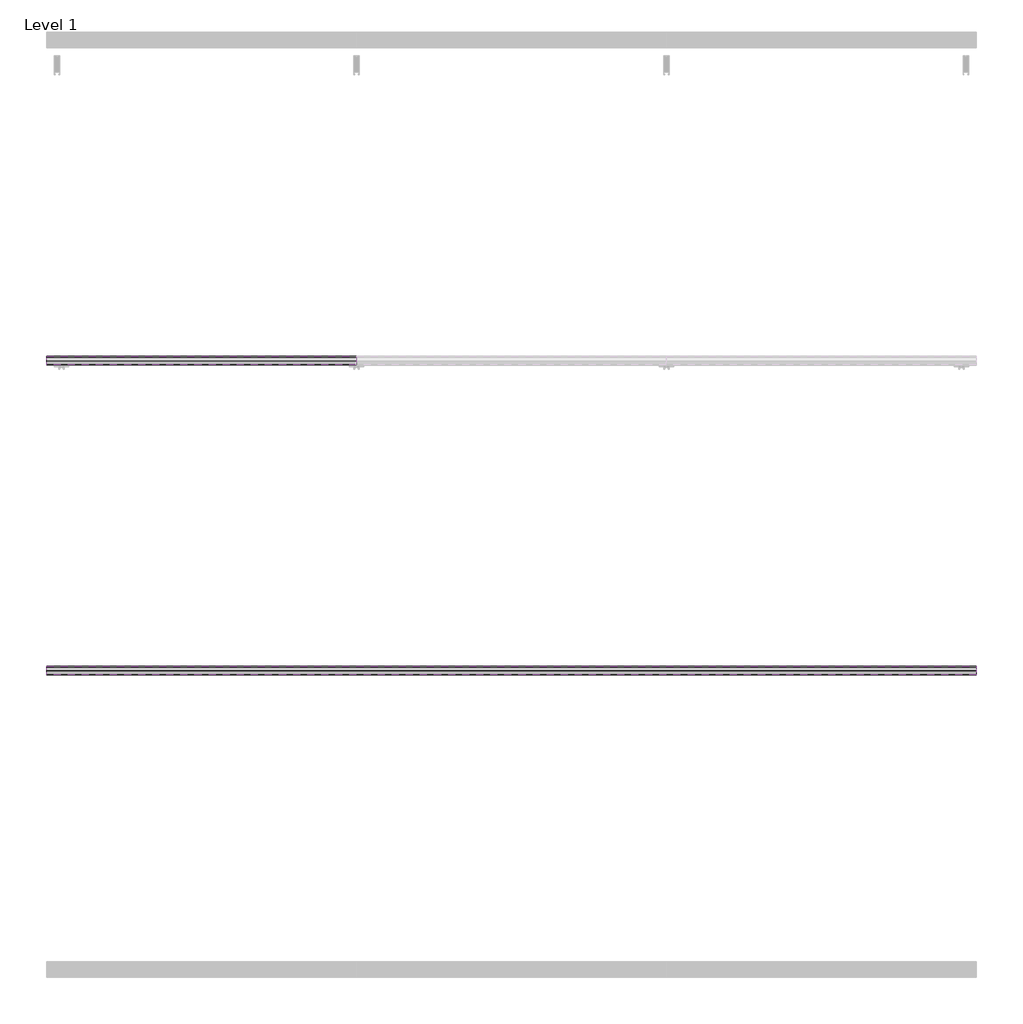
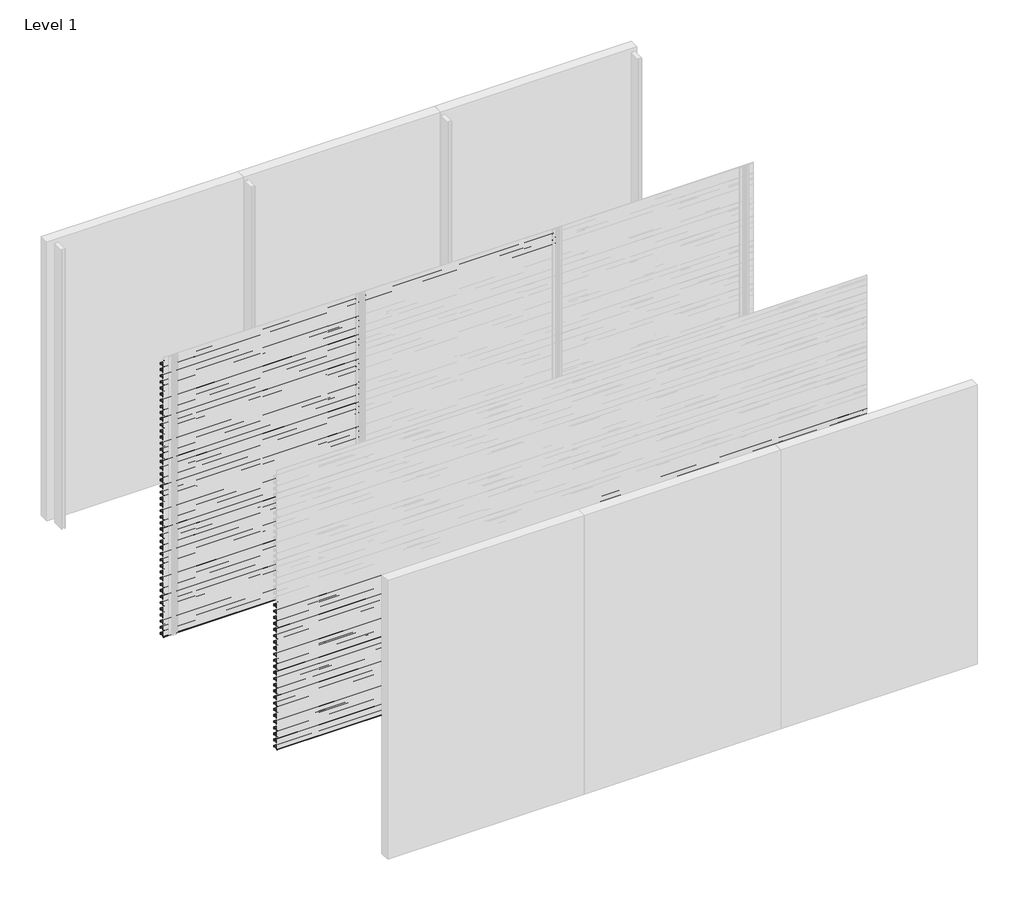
# One storey, part 3 of 27: 71 proxies.
"""IFC4 building model written with IfcOpenShell, lengths in millimetres."""

from ifc_helpers import new_model, si_unit, frame, origin, place, context, project, spatial, polyline, outline, extrude, element, save

model = new_model("IFC4")

# Units and contexts
model_context = context("Model", 3, world=origin())
ifc_project = project(units=[si_unit("LENGTHUNIT", "METRE", prefix="MILLI")], contexts=[model_context])

# Site, building, storey
site = spatial("IfcSite", under=ifc_project)
building = spatial("IfcBuilding", under=site)
storey = spatial("IfcBuildingStorey", under=building, Name="Level 1", Elevation=0.0)

# Proxies
placement = place(None, origin())
element("IfcBuildingElementProxy", 1, Name="Wall Sweeps", at=placement, inside=storey, context=model_context, shape_type="SweptSolid", body=[
    extrude(outline(polyline([(-53943.0, 2913.2), (-53943.0, 2893.5), (-53944.25, 2894.5866084), (-53944.25, 2912.4872415), (-53963.0322086, 2925.6010889), (-53995.1332975, 2893.5), (-53996.0525363, 2894.4192388), (-53964.1148087, 2926.3569665), (-53998.0, 2950.0158044), (-53998.0, 2970.0), (-53996.75, 2970.0), (-53996.75, 2950.7285629), (-53943.0, 2913.2)])), frame((0.0, 0.0, 0.0), z_axis=(1.0, 0.0, 0.0), x_axis=(0.0, 1.0, 0.0)), (0.0, 0.0, 1.0), 2000.0),
])
element("IfcBuildingElementProxy", 2, Name="Wall Sweeps", at=placement, inside=storey, context=model_context, shape_type="SweptSolid", body=[
    extrude(outline(polyline([(-53943.0, 2847.2), (-53943.0, 2827.5), (-53944.25, 2828.5866084), (-53944.25, 2846.4872415), (-53963.0322086, 2859.6010889), (-53995.1332975, 2827.5), (-53996.0525363, 2828.4192388), (-53964.1148087, 2860.3569665), (-53998.0, 2884.0158044), (-53998.0, 2904.0), (-53996.75, 2904.0), (-53996.75, 2884.7285629), (-53943.0, 2847.2)])), frame((0.0, 0.0, 0.0), z_axis=(1.0, 0.0, 0.0), x_axis=(0.0, 1.0, 0.0)), (0.0, 0.0, 1.0), 2000.0),
])
element("IfcBuildingElementProxy", 3, Name="Wall Sweeps", at=placement, inside=storey, context=model_context, shape_type="SweptSolid", body=[
    extrude(outline(polyline([(-53943.0, 2781.2), (-53943.0, 2761.5), (-53944.25, 2762.5866084), (-53944.25, 2780.4872415), (-53963.0322086, 2793.6010889), (-53995.1332975, 2761.5), (-53996.0525363, 2762.4192388), (-53964.1148087, 2794.3569665), (-53998.0, 2818.0158044), (-53998.0, 2838.0), (-53996.75, 2838.0), (-53996.75, 2818.7285629), (-53943.0, 2781.2)])), frame((0.0, 0.0, 0.0), z_axis=(1.0, 0.0, 0.0), x_axis=(0.0, 1.0, 0.0)), (0.0, 0.0, 1.0), 2000.0),
])
element("IfcBuildingElementProxy", 4, Name="Wall Sweeps", at=placement, inside=storey, context=model_context, shape_type="SweptSolid", body=[
    extrude(outline(polyline([(-53943.0, 2715.2), (-53943.0, 2695.5), (-53944.25, 2696.5866084), (-53944.25, 2714.4872415), (-53963.0322086, 2727.6010889), (-53995.1332975, 2695.5), (-53996.0525363, 2696.4192388), (-53964.1148087, 2728.3569665), (-53998.0, 2752.0158044), (-53998.0, 2772.0), (-53996.75, 2772.0), (-53996.75, 2752.7285629), (-53943.0, 2715.2)])), frame((0.0, 0.0, 0.0), z_axis=(1.0, 0.0, 0.0), x_axis=(0.0, 1.0, 0.0)), (0.0, 0.0, 1.0), 2000.0),
])
element("IfcBuildingElementProxy", 5, Name="Wall Sweeps", at=placement, inside=storey, context=model_context, shape_type="SweptSolid", body=[
    extrude(outline(polyline([(-53943.0, 2649.2), (-53943.0, 2629.5), (-53944.25, 2630.5866084), (-53944.25, 2648.4872415), (-53963.0322086, 2661.6010889), (-53995.1332975, 2629.5), (-53996.0525363, 2630.4192388), (-53964.1148087, 2662.3569665), (-53998.0, 2686.0158044), (-53998.0, 2706.0), (-53996.75, 2706.0), (-53996.75, 2686.7285629), (-53943.0, 2649.2)])), frame((0.0, 0.0, 0.0), z_axis=(1.0, 0.0, 0.0), x_axis=(0.0, 1.0, 0.0)), (0.0, 0.0, 1.0), 2000.0),
])
element("IfcBuildingElementProxy", 6, Name="Wall Sweeps", at=placement, inside=storey, context=model_context, shape_type="SweptSolid", body=[
    extrude(outline(polyline([(-53943.0, 2583.2), (-53943.0, 2563.5), (-53944.25, 2564.5866084), (-53944.25, 2582.4872415), (-53963.0322086, 2595.6010889), (-53995.1332975, 2563.5), (-53996.0525363, 2564.4192388), (-53964.1148087, 2596.3569665), (-53998.0, 2620.0158044), (-53998.0, 2640.0), (-53996.75, 2640.0), (-53996.75, 2620.7285629), (-53943.0, 2583.2)])), frame((0.0, 0.0, 0.0), z_axis=(1.0, 0.0, 0.0), x_axis=(0.0, 1.0, 0.0)), (0.0, 0.0, 1.0), 2000.0),
])
element("IfcBuildingElementProxy", 7, Name="Wall Sweeps", at=placement, inside=storey, context=model_context, shape_type="SweptSolid", body=[
    extrude(outline(polyline([(-53943.0, 2517.2), (-53943.0, 2497.5), (-53944.25, 2498.5866084), (-53944.25, 2516.4872415), (-53963.0322086, 2529.6010889), (-53995.1332975, 2497.5), (-53996.0525363, 2498.4192388), (-53964.1148087, 2530.3569665), (-53998.0, 2554.0158044), (-53998.0, 2574.0), (-53996.75, 2574.0), (-53996.75, 2554.7285629), (-53943.0, 2517.2)])), frame((0.0, 0.0, 0.0), z_axis=(1.0, 0.0, 0.0), x_axis=(0.0, 1.0, 0.0)), (0.0, 0.0, 1.0), 2000.0),
])
element("IfcBuildingElementProxy", 8, Name="Wall Sweeps", at=placement, inside=storey, context=model_context, shape_type="SweptSolid", body=[
    extrude(outline(polyline([(-53943.0, 2451.2), (-53943.0, 2431.5), (-53944.25, 2432.5866084), (-53944.25, 2450.4872415), (-53963.0322086, 2463.6010889), (-53995.1332975, 2431.5), (-53996.0525363, 2432.4192388), (-53964.1148087, 2464.3569665), (-53998.0, 2488.0158044), (-53998.0, 2508.0), (-53996.75, 2508.0), (-53996.75, 2488.7285629), (-53943.0, 2451.2)])), frame((0.0, 0.0, 0.0), z_axis=(1.0, 0.0, 0.0), x_axis=(0.0, 1.0, 0.0)), (0.0, 0.0, 1.0), 2000.0),
])
element("IfcBuildingElementProxy", 9, Name="Wall Sweeps", at=placement, inside=storey, context=model_context, shape_type="SweptSolid", body=[
    extrude(outline(polyline([(-53943.0, 2385.2), (-53943.0, 2365.5), (-53944.25, 2366.5866084), (-53944.25, 2384.4872415), (-53963.0322086, 2397.6010889), (-53995.1332975, 2365.5), (-53996.0525363, 2366.4192388), (-53964.1148087, 2398.3569665), (-53998.0, 2422.0158044), (-53998.0, 2442.0), (-53996.75, 2442.0), (-53996.75, 2422.7285629), (-53943.0, 2385.2)])), frame((0.0, 0.0, 0.0), z_axis=(1.0, 0.0, 0.0), x_axis=(0.0, 1.0, 0.0)), (0.0, 0.0, 1.0), 2000.0),
])
element("IfcBuildingElementProxy", 10, Name="Wall Sweeps", at=placement, inside=storey, context=model_context, shape_type="SweptSolid", body=[
    extrude(outline(polyline([(-53943.0, 2319.2), (-53943.0, 2299.5), (-53944.25, 2300.5866084), (-53944.25, 2318.4872415), (-53963.0322086, 2331.6010889), (-53995.1332975, 2299.5), (-53996.0525363, 2300.4192388), (-53964.1148087, 2332.3569665), (-53998.0, 2356.0158044), (-53998.0, 2376.0), (-53996.75, 2376.0), (-53996.75, 2356.7285629), (-53943.0, 2319.2)])), frame((0.0, 0.0, 0.0), z_axis=(1.0, 0.0, 0.0), x_axis=(0.0, 1.0, 0.0)), (0.0, 0.0, 1.0), 2000.0),
])
element("IfcBuildingElementProxy", 11, Name="Wall Sweeps", at=placement, inside=storey, context=model_context, shape_type="SweptSolid", body=[
    extrude(outline(polyline([(-53943.0, 2253.2), (-53943.0, 2233.5), (-53944.25, 2234.5866084), (-53944.25, 2252.4872415), (-53963.0322086, 2265.6010889), (-53995.1332975, 2233.5), (-53996.0525363, 2234.4192388), (-53964.1148087, 2266.3569665), (-53998.0, 2290.0158044), (-53998.0, 2310.0), (-53996.75, 2310.0), (-53996.75, 2290.7285629), (-53943.0, 2253.2)])), frame((0.0, 0.0, 0.0), z_axis=(1.0, 0.0, 0.0), x_axis=(0.0, 1.0, 0.0)), (0.0, 0.0, 1.0), 2000.0),
])
element("IfcBuildingElementProxy", 12, Name="Wall Sweeps", at=placement, inside=storey, context=model_context, shape_type="SweptSolid", body=[
    extrude(outline(polyline([(-53943.0, 2187.2), (-53943.0, 2167.5), (-53944.25, 2168.5866084), (-53944.25, 2186.4872415), (-53963.0322086, 2199.6010889), (-53995.1332975, 2167.5), (-53996.0525363, 2168.4192388), (-53964.1148087, 2200.3569665), (-53998.0, 2224.0158044), (-53998.0, 2244.0), (-53996.75, 2244.0), (-53996.75, 2224.7285629), (-53943.0, 2187.2)])), frame((0.0, 0.0, 0.0), z_axis=(1.0, 0.0, 0.0), x_axis=(0.0, 1.0, 0.0)), (0.0, 0.0, 1.0), 2000.0),
])
element("IfcBuildingElementProxy", 13, Name="Wall Sweeps", at=placement, inside=storey, context=model_context, shape_type="SweptSolid", body=[
    extrude(outline(polyline([(-53943.0, 2121.2), (-53943.0, 2101.5), (-53944.25, 2102.5866084), (-53944.25, 2120.4872415), (-53963.0322086, 2133.6010889), (-53995.1332975, 2101.5), (-53996.0525363, 2102.4192388), (-53964.1148087, 2134.3569665), (-53998.0, 2158.0158044), (-53998.0, 2178.0), (-53996.75, 2178.0), (-53996.75, 2158.7285629), (-53943.0, 2121.2)])), frame((0.0, 0.0, 0.0), z_axis=(1.0, 0.0, 0.0), x_axis=(0.0, 1.0, 0.0)), (0.0, 0.0, 1.0), 2000.0),
])
element("IfcBuildingElementProxy", 14, Name="Wall Sweeps", at=placement, inside=storey, context=model_context, shape_type="SweptSolid", body=[
    extrude(outline(polyline([(-53943.0, 2055.2), (-53943.0, 2035.5), (-53944.25, 2036.5866084), (-53944.25, 2054.4872415), (-53963.0322086, 2067.6010889), (-53995.1332975, 2035.5), (-53996.0525363, 2036.4192388), (-53964.1148087, 2068.3569665), (-53998.0, 2092.0158044), (-53998.0, 2112.0), (-53996.75, 2112.0), (-53996.75, 2092.7285629), (-53943.0, 2055.2)])), frame((0.0, 0.0, 0.0), z_axis=(1.0, 0.0, 0.0), x_axis=(0.0, 1.0, 0.0)), (0.0, 0.0, 1.0), 2000.0),
])
element("IfcBuildingElementProxy", 15, Name="Wall Sweeps", at=placement, inside=storey, context=model_context, shape_type="SweptSolid", body=[
    extrude(outline(polyline([(-53943.0, 1989.2), (-53943.0, 1969.5), (-53944.25, 1970.5866084), (-53944.25, 1988.4872415), (-53963.0322086, 2001.6010889), (-53995.1332975, 1969.5), (-53996.0525363, 1970.4192388), (-53964.1148087, 2002.3569665), (-53998.0, 2026.0158044), (-53998.0, 2046.0), (-53996.75, 2046.0), (-53996.75, 2026.7285629), (-53943.0, 1989.2)])), frame((0.0, 0.0, 0.0), z_axis=(1.0, 0.0, 0.0), x_axis=(0.0, 1.0, 0.0)), (0.0, 0.0, 1.0), 2000.0),
])
element("IfcBuildingElementProxy", 16, Name="Wall Sweeps", at=placement, inside=storey, context=model_context, shape_type="SweptSolid", body=[
    extrude(outline(polyline([(-53943.0, 1923.2), (-53943.0, 1903.5), (-53944.25, 1904.5866084), (-53944.25, 1922.4872415), (-53963.0322086, 1935.6010889), (-53995.1332975, 1903.5), (-53996.0525363, 1904.4192388), (-53964.1148087, 1936.3569665), (-53998.0, 1960.0158044), (-53998.0, 1980.0), (-53996.75, 1980.0), (-53996.75, 1960.7285629), (-53943.0, 1923.2)])), frame((0.0, 0.0, 0.0), z_axis=(1.0, 0.0, 0.0), x_axis=(0.0, 1.0, 0.0)), (0.0, 0.0, 1.0), 2000.0),
])
element("IfcBuildingElementProxy", 17, Name="Wall Sweeps", at=placement, inside=storey, context=model_context, shape_type="SweptSolid", body=[
    extrude(outline(polyline([(-53943.0, 1857.2), (-53943.0, 1837.5), (-53944.25, 1838.5866084), (-53944.25, 1856.4872415), (-53963.0322086, 1869.6010889), (-53995.1332975, 1837.5), (-53996.0525363, 1838.4192388), (-53964.1148087, 1870.3569665), (-53998.0, 1894.0158044), (-53998.0, 1914.0), (-53996.75, 1914.0), (-53996.75, 1894.7285629), (-53943.0, 1857.2)])), frame((0.0, 0.0, 0.0), z_axis=(1.0, 0.0, 0.0), x_axis=(0.0, 1.0, 0.0)), (0.0, 0.0, 1.0), 2000.0),
])
element("IfcBuildingElementProxy", 18, Name="Wall Sweeps", at=placement, inside=storey, context=model_context, shape_type="SweptSolid", body=[
    extrude(outline(polyline([(-53943.0, 1791.2), (-53943.0, 1771.5), (-53944.25, 1772.5866084), (-53944.25, 1790.4872415), (-53963.0322086, 1803.6010889), (-53995.1332975, 1771.5), (-53996.0525363, 1772.4192388), (-53964.1148087, 1804.3569665), (-53998.0, 1828.0158044), (-53998.0, 1848.0), (-53996.75, 1848.0), (-53996.75, 1828.7285629), (-53943.0, 1791.2)])), frame((0.0, 0.0, 0.0), z_axis=(1.0, 0.0, 0.0), x_axis=(0.0, 1.0, 0.0)), (0.0, 0.0, 1.0), 2000.0),
])
element("IfcBuildingElementProxy", 19, Name="Wall Sweeps", at=placement, inside=storey, context=model_context, shape_type="SweptSolid", body=[
    extrude(outline(polyline([(-53943.0, 1725.2), (-53943.0, 1705.5), (-53944.25, 1706.5866084), (-53944.25, 1724.4872415), (-53963.0322086, 1737.6010889), (-53995.1332975, 1705.5), (-53996.0525363, 1706.4192388), (-53964.1148087, 1738.3569665), (-53998.0, 1762.0158044), (-53998.0, 1782.0), (-53996.75, 1782.0), (-53996.75, 1762.7285629), (-53943.0, 1725.2)])), frame((0.0, 0.0, 0.0), z_axis=(1.0, 0.0, 0.0), x_axis=(0.0, 1.0, 0.0)), (0.0, 0.0, 1.0), 2000.0),
])
element("IfcBuildingElementProxy", 20, Name="Wall Sweeps", at=placement, inside=storey, context=model_context, shape_type="SweptSolid", body=[
    extrude(outline(polyline([(-53943.0, 1659.2), (-53943.0, 1639.5), (-53944.25, 1640.5866084), (-53944.25, 1658.4872415), (-53963.0322086, 1671.6010889), (-53995.1332975, 1639.5), (-53996.0525363, 1640.4192388), (-53964.1148087, 1672.3569665), (-53998.0, 1696.0158044), (-53998.0, 1716.0), (-53996.75, 1716.0), (-53996.75, 1696.7285629), (-53943.0, 1659.2)])), frame((0.0, 0.0, 0.0), z_axis=(1.0, 0.0, 0.0), x_axis=(0.0, 1.0, 0.0)), (0.0, 0.0, 1.0), 2000.0),
])
element("IfcBuildingElementProxy", 21, Name="Wall Sweeps", at=placement, inside=storey, context=model_context, shape_type="SweptSolid", body=[
    extrude(outline(polyline([(-53943.0, 1593.2), (-53943.0, 1573.5), (-53944.25, 1574.5866084), (-53944.25, 1592.4872415), (-53963.0322086, 1605.6010889), (-53995.1332975, 1573.5), (-53996.0525363, 1574.4192388), (-53964.1148087, 1606.3569665), (-53998.0, 1630.0158044), (-53998.0, 1650.0), (-53996.75, 1650.0), (-53996.75, 1630.7285629), (-53943.0, 1593.2)])), frame((0.0, 0.0, 0.0), z_axis=(1.0, 0.0, 0.0), x_axis=(0.0, 1.0, 0.0)), (0.0, 0.0, 1.0), 2000.0),
])
element("IfcBuildingElementProxy", 22, Name="Wall Sweeps", at=placement, inside=storey, context=model_context, shape_type="SweptSolid", body=[
    extrude(outline(polyline([(-53943.0, 1527.2), (-53943.0, 1507.5), (-53944.25, 1508.5866084), (-53944.25, 1526.4872415), (-53963.0322086, 1539.6010889), (-53995.1332975, 1507.5), (-53996.0525363, 1508.4192388), (-53964.1148087, 1540.3569665), (-53998.0, 1564.0158044), (-53998.0, 1584.0), (-53996.75, 1584.0), (-53996.75, 1564.7285629), (-53943.0, 1527.2)])), frame((0.0, 0.0, 0.0), z_axis=(1.0, 0.0, 0.0), x_axis=(0.0, 1.0, 0.0)), (0.0, 0.0, 1.0), 2000.0),
])
element("IfcBuildingElementProxy", 23, Name="Wall Sweeps", at=placement, inside=storey, context=model_context, shape_type="SweptSolid", body=[
    extrude(outline(polyline([(-53943.0, 1461.2), (-53943.0, 1441.5), (-53944.25, 1442.5866084), (-53944.25, 1460.4872415), (-53963.0322086, 1473.6010889), (-53995.1332975, 1441.5), (-53996.0525363, 1442.4192388), (-53964.1148087, 1474.3569665), (-53998.0, 1498.0158044), (-53998.0, 1518.0), (-53996.75, 1518.0), (-53996.75, 1498.7285629), (-53943.0, 1461.2)])), frame((0.0, 0.0, 0.0), z_axis=(1.0, 0.0, 0.0), x_axis=(0.0, 1.0, 0.0)), (0.0, 0.0, 1.0), 2000.0),
])
element("IfcBuildingElementProxy", 24, Name="Wall Sweeps", at=placement, inside=storey, context=model_context, shape_type="SweptSolid", body=[
    extrude(outline(polyline([(-53943.0, 1395.2), (-53943.0, 1375.5), (-53944.25, 1376.5866084), (-53944.25, 1394.4872415), (-53963.0322086, 1407.6010889), (-53995.1332975, 1375.5), (-53996.0525363, 1376.4192388), (-53964.1148087, 1408.3569665), (-53998.0, 1432.0158044), (-53998.0, 1452.0), (-53996.75, 1452.0), (-53996.75, 1432.7285629), (-53943.0, 1395.2)])), frame((0.0, 0.0, 0.0), z_axis=(1.0, 0.0, 0.0), x_axis=(0.0, 1.0, 0.0)), (0.0, 0.0, 1.0), 2000.0),
])
element("IfcBuildingElementProxy", 25, Name="Wall Sweeps", at=placement, inside=storey, context=model_context, shape_type="SweptSolid", body=[
    extrude(outline(polyline([(-53943.0, 1329.2), (-53943.0, 1309.5), (-53944.25, 1310.5866084), (-53944.25, 1328.4872415), (-53963.0322086, 1341.6010889), (-53995.1332975, 1309.5), (-53996.0525363, 1310.4192388), (-53964.1148087, 1342.3569665), (-53998.0, 1366.0158044), (-53998.0, 1386.0), (-53996.75, 1386.0), (-53996.75, 1366.7285629), (-53943.0, 1329.2)])), frame((0.0, 0.0, 0.0), z_axis=(1.0, 0.0, 0.0), x_axis=(0.0, 1.0, 0.0)), (0.0, 0.0, 1.0), 2000.0),
])
element("IfcBuildingElementProxy", 26, Name="Wall Sweeps", at=placement, inside=storey, context=model_context, shape_type="SweptSolid", body=[
    extrude(outline(polyline([(-53943.0, 1263.2), (-53943.0, 1243.5), (-53944.25, 1244.5866084), (-53944.25, 1262.4872415), (-53963.0322086, 1275.6010889), (-53995.1332975, 1243.5), (-53996.0525363, 1244.4192388), (-53964.1148087, 1276.3569665), (-53998.0, 1300.0158044), (-53998.0, 1320.0), (-53996.75, 1320.0), (-53996.75, 1300.7285629), (-53943.0, 1263.2)])), frame((0.0, 0.0, 0.0), z_axis=(1.0, 0.0, 0.0), x_axis=(0.0, 1.0, 0.0)), (0.0, 0.0, 1.0), 2000.0),
])
element("IfcBuildingElementProxy", 27, Name="Wall Sweeps", at=placement, inside=storey, context=model_context, shape_type="SweptSolid", body=[
    extrude(outline(polyline([(-53943.0, 1197.2), (-53943.0, 1177.5), (-53944.25, 1178.5866084), (-53944.25, 1196.4872415), (-53963.0322086, 1209.6010889), (-53995.1332975, 1177.5), (-53996.0525363, 1178.4192388), (-53964.1148087, 1210.3569665), (-53998.0, 1234.0158044), (-53998.0, 1254.0), (-53996.75, 1254.0), (-53996.75, 1234.7285629), (-53943.0, 1197.2)])), frame((0.0, 0.0, 0.0), z_axis=(1.0, 0.0, 0.0), x_axis=(0.0, 1.0, 0.0)), (0.0, 0.0, 1.0), 2000.0),
])
element("IfcBuildingElementProxy", 28, Name="Wall Sweeps", at=placement, inside=storey, context=model_context, shape_type="SweptSolid", body=[
    extrude(outline(polyline([(-53943.0, 1131.2), (-53943.0, 1111.5), (-53944.25, 1112.5866084), (-53944.25, 1130.4872415), (-53963.0322086, 1143.6010889), (-53995.1332975, 1111.5), (-53996.0525363, 1112.4192388), (-53964.1148087, 1144.3569665), (-53998.0, 1168.0158044), (-53998.0, 1188.0), (-53996.75, 1188.0), (-53996.75, 1168.7285629), (-53943.0, 1131.2)])), frame((0.0, 0.0, 0.0), z_axis=(1.0, 0.0, 0.0), x_axis=(0.0, 1.0, 0.0)), (0.0, 0.0, 1.0), 2000.0),
])
element("IfcBuildingElementProxy", 29, Name="Wall Sweeps", at=placement, inside=storey, context=model_context, shape_type="SweptSolid", body=[
    extrude(outline(polyline([(-53943.0, 1065.2), (-53943.0, 1045.5), (-53944.25, 1046.5866084), (-53944.25, 1064.4872415), (-53963.0322086, 1077.6010889), (-53995.1332975, 1045.5), (-53996.0525363, 1046.4192388), (-53964.1148087, 1078.3569665), (-53998.0, 1102.0158044), (-53998.0, 1122.0), (-53996.75, 1122.0), (-53996.75, 1102.7285629), (-53943.0, 1065.2)])), frame((0.0, 0.0, 0.0), z_axis=(1.0, 0.0, 0.0), x_axis=(0.0, 1.0, 0.0)), (0.0, 0.0, 1.0), 2000.0),
])
element("IfcBuildingElementProxy", 30, Name="Wall Sweeps", at=placement, inside=storey, context=model_context, shape_type="SweptSolid", body=[
    extrude(outline(polyline([(-53943.0, 999.2), (-53943.0, 979.5), (-53944.25, 980.5866084), (-53944.25, 998.4872415), (-53963.0322086, 1011.6010889), (-53995.1332975, 979.5), (-53996.0525363, 980.4192388), (-53964.1148087, 1012.3569665), (-53998.0, 1036.0158044), (-53998.0, 1056.0), (-53996.75, 1056.0), (-53996.75, 1036.7285629), (-53943.0, 999.2)])), frame((0.0, 0.0, 0.0), z_axis=(1.0, 0.0, 0.0), x_axis=(0.0, 1.0, 0.0)), (0.0, 0.0, 1.0), 2000.0),
])
element("IfcBuildingElementProxy", 31, Name="Wall Sweeps", at=placement, inside=storey, context=model_context, shape_type="SweptSolid", body=[
    extrude(outline(polyline([(-53943.0, 933.2), (-53943.0, 913.5), (-53944.25, 914.5866084), (-53944.25, 932.4872415), (-53963.0322086, 945.6010889), (-53995.1332975, 913.5), (-53996.0525363, 914.4192388), (-53964.1148087, 946.3569665), (-53998.0, 970.0158044), (-53998.0, 990.0), (-53996.75, 990.0), (-53996.75, 970.7285629), (-53943.0, 933.2)])), frame((0.0, 0.0, 0.0), z_axis=(1.0, 0.0, 0.0), x_axis=(0.0, 1.0, 0.0)), (0.0, 0.0, 1.0), 2000.0),
])
element("IfcBuildingElementProxy", 32, Name="Wall Sweeps", at=placement, inside=storey, context=model_context, shape_type="SweptSolid", body=[
    extrude(outline(polyline([(-53943.0, 867.2), (-53943.0, 847.5), (-53944.25, 848.5866084), (-53944.25, 866.4872415), (-53963.0322086, 879.6010889), (-53995.1332975, 847.5), (-53996.0525363, 848.4192388), (-53964.1148087, 880.3569665), (-53998.0, 904.0158044), (-53998.0, 924.0), (-53996.75, 924.0), (-53996.75, 904.7285629), (-53943.0, 867.2)])), frame((0.0, 0.0, 0.0), z_axis=(1.0, 0.0, 0.0), x_axis=(0.0, 1.0, 0.0)), (0.0, 0.0, 1.0), 2000.0),
])
element("IfcBuildingElementProxy", 33, Name="Wall Sweeps", at=placement, inside=storey, context=model_context, shape_type="SweptSolid", body=[
    extrude(outline(polyline([(-53943.0, 801.2), (-53943.0, 781.5), (-53944.25, 782.5866084), (-53944.25, 800.4872415), (-53963.0322086, 813.6010889), (-53995.1332975, 781.5), (-53996.0525363, 782.4192388), (-53964.1148087, 814.3569665), (-53998.0, 838.0158044), (-53998.0, 858.0), (-53996.75, 858.0), (-53996.75, 838.7285629), (-53943.0, 801.2)])), frame((0.0, 0.0, 0.0), z_axis=(1.0, 0.0, 0.0), x_axis=(0.0, 1.0, 0.0)), (0.0, 0.0, 1.0), 2000.0),
])
element("IfcBuildingElementProxy", 34, Name="Wall Sweeps", at=placement, inside=storey, context=model_context, shape_type="SweptSolid", body=[
    extrude(outline(polyline([(-53943.0, 735.2), (-53943.0, 715.5), (-53944.25, 716.5866084), (-53944.25, 734.4872415), (-53963.0322086, 747.6010889), (-53995.1332975, 715.5), (-53996.0525363, 716.4192388), (-53964.1148087, 748.3569665), (-53998.0, 772.0158044), (-53998.0, 792.0), (-53996.75, 792.0), (-53996.75, 772.7285629), (-53943.0, 735.2)])), frame((0.0, 0.0, 0.0), z_axis=(1.0, 0.0, 0.0), x_axis=(0.0, 1.0, 0.0)), (0.0, 0.0, 1.0), 2000.0),
])
element("IfcBuildingElementProxy", 35, Name="Wall Sweeps", at=placement, inside=storey, context=model_context, shape_type="SweptSolid", body=[
    extrude(outline(polyline([(-53943.0, 669.2), (-53943.0, 649.5), (-53944.25, 650.5866084), (-53944.25, 668.4872415), (-53963.0322086, 681.6010889), (-53995.1332975, 649.5), (-53996.0525363, 650.4192388), (-53964.1148087, 682.3569665), (-53998.0, 706.0158044), (-53998.0, 726.0), (-53996.75, 726.0), (-53996.75, 706.7285629), (-53943.0, 669.2)])), frame((0.0, 0.0, 0.0), z_axis=(1.0, 0.0, 0.0), x_axis=(0.0, 1.0, 0.0)), (0.0, 0.0, 1.0), 2000.0),
])
element("IfcBuildingElementProxy", 36, Name="Wall Sweeps", at=placement, inside=storey, context=model_context, shape_type="SweptSolid", body=[
    extrude(outline(polyline([(-53943.0, 603.2), (-53943.0, 583.5), (-53944.25, 584.5866084), (-53944.25, 602.4872415), (-53963.0322086, 615.6010889), (-53995.1332975, 583.5), (-53996.0525363, 584.4192388), (-53964.1148087, 616.3569665), (-53998.0, 640.0158044), (-53998.0, 660.0), (-53996.75, 660.0), (-53996.75, 640.7285629), (-53943.0, 603.2)])), frame((0.0, 0.0, 0.0), z_axis=(1.0, 0.0, 0.0), x_axis=(0.0, 1.0, 0.0)), (0.0, 0.0, 1.0), 2000.0),
])
element("IfcBuildingElementProxy", 37, Name="Wall Sweeps", at=placement, inside=storey, context=model_context, shape_type="SweptSolid", body=[
    extrude(outline(polyline([(-53943.0, 537.2), (-53943.0, 517.5), (-53944.25, 518.5866084), (-53944.25, 536.4872415), (-53963.0322086, 549.6010889), (-53995.1332975, 517.5), (-53996.0525363, 518.4192388), (-53964.1148087, 550.3569665), (-53998.0, 574.0158044), (-53998.0, 594.0), (-53996.75, 594.0), (-53996.75, 574.7285629), (-53943.0, 537.2)])), frame((0.0, 0.0, 0.0), z_axis=(1.0, 0.0, 0.0), x_axis=(0.0, 1.0, 0.0)), (0.0, 0.0, 1.0), 2000.0),
])
element("IfcBuildingElementProxy", 38, Name="Wall Sweeps", at=placement, inside=storey, context=model_context, shape_type="SweptSolid", body=[
    extrude(outline(polyline([(-53943.0, 471.2), (-53943.0, 451.5), (-53944.25, 452.5866084), (-53944.25, 470.4872415), (-53963.0322086, 483.6010889), (-53995.1332975, 451.5), (-53996.0525363, 452.4192388), (-53964.1148087, 484.3569665), (-53998.0, 508.0158044), (-53998.0, 528.0), (-53996.75, 528.0), (-53996.75, 508.7285629), (-53943.0, 471.2)])), frame((0.0, 0.0, 0.0), z_axis=(1.0, 0.0, 0.0), x_axis=(0.0, 1.0, 0.0)), (0.0, 0.0, 1.0), 2000.0),
])
element("IfcBuildingElementProxy", 39, Name="Wall Sweeps", at=placement, inside=storey, context=model_context, shape_type="SweptSolid", body=[
    extrude(outline(polyline([(-53943.0, 405.2), (-53943.0, 385.5), (-53944.25, 386.5866084), (-53944.25, 404.4872415), (-53963.0322086, 417.6010889), (-53995.1332975, 385.5), (-53996.0525363, 386.4192388), (-53964.1148087, 418.3569665), (-53998.0, 442.0158044), (-53998.0, 462.0), (-53996.75, 462.0), (-53996.75, 442.7285629), (-53943.0, 405.2)])), frame((0.0, 0.0, 0.0), z_axis=(1.0, 0.0, 0.0), x_axis=(0.0, 1.0, 0.0)), (0.0, 0.0, 1.0), 2000.0),
])
element("IfcBuildingElementProxy", 40, Name="Wall Sweeps", at=placement, inside=storey, context=model_context, shape_type="SweptSolid", body=[
    extrude(outline(polyline([(-53943.0, 339.2), (-53943.0, 319.5), (-53944.25, 320.5866084), (-53944.25, 338.4872415), (-53963.0322086, 351.6010889), (-53995.1332975, 319.5), (-53996.0525363, 320.4192388), (-53964.1148087, 352.3569665), (-53998.0, 376.0158044), (-53998.0, 396.0), (-53996.75, 396.0), (-53996.75, 376.7285629), (-53943.0, 339.2)])), frame((0.0, 0.0, 0.0), z_axis=(1.0, 0.0, 0.0), x_axis=(0.0, 1.0, 0.0)), (0.0, 0.0, 1.0), 2000.0),
])
element("IfcBuildingElementProxy", 41, Name="Wall Sweeps", at=placement, inside=storey, context=model_context, shape_type="SweptSolid", body=[
    extrude(outline(polyline([(-53943.0, 273.2), (-53943.0, 253.5), (-53944.25, 254.5866084), (-53944.25, 272.4872415), (-53963.0322086, 285.6010889), (-53995.1332975, 253.5), (-53996.0525363, 254.4192388), (-53964.1148087, 286.3569665), (-53998.0, 310.0158044), (-53998.0, 330.0), (-53996.75, 330.0), (-53996.75, 310.7285629), (-53943.0, 273.2)])), frame((0.0, 0.0, 0.0), z_axis=(1.0, 0.0, 0.0), x_axis=(0.0, 1.0, 0.0)), (0.0, 0.0, 1.0), 2000.0),
])
element("IfcBuildingElementProxy", 42, Name="Wall Sweeps", at=placement, inside=storey, context=model_context, shape_type="SweptSolid", body=[
    extrude(outline(polyline([(-53943.0, 207.2), (-53943.0, 187.5), (-53944.25, 188.5866084), (-53944.25, 206.4872415), (-53963.0322086, 219.6010889), (-53995.1332975, 187.5), (-53996.0525363, 188.4192388), (-53964.1148087, 220.3569665), (-53998.0, 244.0158044), (-53998.0, 264.0), (-53996.75, 264.0), (-53996.75, 244.7285629), (-53943.0, 207.2)])), frame((0.0, 0.0, 0.0), z_axis=(1.0, 0.0, 0.0), x_axis=(0.0, 1.0, 0.0)), (0.0, 0.0, 1.0), 2000.0),
])
element("IfcBuildingElementProxy", 43, Name="Wall Sweeps", at=placement, inside=storey, context=model_context, shape_type="SweptSolid", body=[
    extrude(outline(polyline([(-53943.0, 141.2), (-53943.0, 121.5), (-53944.25, 122.5866084), (-53944.25, 140.4872415), (-53963.0322086, 153.6010889), (-53995.1332975, 121.5), (-53996.0525363, 122.4192388), (-53964.1148087, 154.3569665), (-53998.0, 178.0158044), (-53998.0, 198.0), (-53996.75, 198.0), (-53996.75, 178.7285629), (-53943.0, 141.2)])), frame((0.0, 0.0, 0.0), z_axis=(1.0, 0.0, 0.0), x_axis=(0.0, 1.0, 0.0)), (0.0, 0.0, 1.0), 2000.0),
])
element("IfcBuildingElementProxy", 44, Name="Wall Sweeps", at=placement, inside=storey, context=model_context, shape_type="SweptSolid", body=[
    extrude(outline(polyline([(-53943.0, 75.2), (-53943.0, 55.5), (-53944.25, 56.5866084), (-53944.25, 74.4872415), (-53963.0322086, 87.6010889), (-53995.1332975, 55.5), (-53996.0525363, 56.4192388), (-53964.1148087, 88.3569665), (-53998.0, 112.0158044), (-53998.0, 132.0), (-53996.75, 132.0), (-53996.75, 112.7285629), (-53943.0, 75.2)])), frame((0.0, 0.0, 0.0), z_axis=(1.0, 0.0, 0.0), x_axis=(0.0, 1.0, 0.0)), (0.0, 0.0, 1.0), 2000.0),
])
element("IfcBuildingElementProxy", 45, Name="Wall Sweeps", at=placement, inside=storey, context=model_context, shape_type="SweptSolid", body=[
    extrude(outline(polyline([(-53943.0, 9.2), (-53943.0, -10.5), (-53944.25, -9.4133916), (-53944.25, 8.4872415), (-53963.0322086, 21.6010889), (-53995.1332975, -10.5), (-53996.0525363, -9.5807612), (-53964.1148087, 22.3569665), (-53998.0, 46.0158044), (-53998.0, 66.0), (-53996.75, 66.0), (-53996.75, 46.7285629), (-53943.0, 9.2)])), frame((0.0, 0.0, 0.0), z_axis=(1.0, 0.0, 0.0), x_axis=(0.0, 1.0, 0.0)), (0.0, 0.0, 1.0), 2000.0),
])
element("IfcBuildingElementProxy", 46, Name="Wall Sweeps", at=placement, inside=storey, context=model_context, shape_type="SweptSolid", body=[
    extrude(outline(polyline([(-53943.0, 2913.2), (-53943.0, 2893.5), (-53944.25, 2894.5866084), (-53944.25, 2912.4872415), (-53963.0322086, 2925.6010889), (-53995.1332975, 2893.5), (-53996.0525363, 2894.4192388), (-53964.1148087, 2926.3569665), (-53998.0, 2950.0158044), (-53998.0, 2970.0), (-53996.75, 2970.0), (-53996.75, 2950.7285629), (-53943.0, 2913.2)])), frame((2000.0, 0.0, 0.0), z_axis=(1.0, 0.0, 0.0), x_axis=(0.0, 1.0, 0.0)), (0.0, 0.0, 1.0), 2000.0),
])
element("IfcBuildingElementProxy", 47, Name="Wall Sweeps", at=placement, inside=storey, context=model_context, shape_type="SweptSolid", body=[
    extrude(outline(polyline([(-53943.0, 2847.2), (-53943.0, 2827.5), (-53944.25, 2828.5866084), (-53944.25, 2846.4872415), (-53963.0322086, 2859.6010889), (-53995.1332975, 2827.5), (-53996.0525363, 2828.4192388), (-53964.1148087, 2860.3569665), (-53998.0, 2884.0158044), (-53998.0, 2904.0), (-53996.75, 2904.0), (-53996.75, 2884.7285629), (-53943.0, 2847.2)])), frame((2000.0, 0.0, 0.0), z_axis=(1.0, 0.0, 0.0), x_axis=(0.0, 1.0, 0.0)), (0.0, 0.0, 1.0), 2000.0),
])
element("IfcBuildingElementProxy", 48, Name="Wall Sweeps", at=placement, inside=storey, context=model_context, shape_type="SweptSolid", body=[
    extrude(outline(polyline([(-55943.0, 1527.2), (-55943.0, 1507.5), (-55944.25, 1508.5866084), (-55944.25, 1526.4872415), (-55963.0322086, 1539.6010889), (-55995.1332975, 1507.5), (-55996.0525363, 1508.4192388), (-55964.1148087, 1540.3569665), (-55998.0, 1564.0158044), (-55998.0, 1584.0), (-55996.75, 1584.0), (-55996.75, 1564.7285629), (-55943.0, 1527.2)])), frame((0.0, 0.0, 0.0), z_axis=(1.0, 0.0, 0.0), x_axis=(0.0, 1.0, 0.0)), (0.0, 0.0, 1.0), 6000.0),
])
element("IfcBuildingElementProxy", 49, Name="Wall Sweeps", at=placement, inside=storey, context=model_context, shape_type="SweptSolid", body=[
    extrude(outline(polyline([(-55943.0, 1461.2), (-55943.0, 1441.5), (-55944.25, 1442.5866084), (-55944.25, 1460.4872415), (-55963.0322086, 1473.6010889), (-55995.1332975, 1441.5), (-55996.0525363, 1442.4192388), (-55964.1148087, 1474.3569665), (-55998.0, 1498.0158044), (-55998.0, 1518.0), (-55996.75, 1518.0), (-55996.75, 1498.7285629), (-55943.0, 1461.2)])), frame((0.0, 0.0, 0.0), z_axis=(1.0, 0.0, 0.0), x_axis=(0.0, 1.0, 0.0)), (0.0, 0.0, 1.0), 6000.0),
])
element("IfcBuildingElementProxy", 50, Name="Wall Sweeps", at=placement, inside=storey, context=model_context, shape_type="SweptSolid", body=[
    extrude(outline(polyline([(-55943.0, 1395.2), (-55943.0, 1375.5), (-55944.25, 1376.5866084), (-55944.25, 1394.4872415), (-55963.0322086, 1407.6010889), (-55995.1332975, 1375.5), (-55996.0525363, 1376.4192388), (-55964.1148087, 1408.3569665), (-55998.0, 1432.0158044), (-55998.0, 1452.0), (-55996.75, 1452.0), (-55996.75, 1432.7285629), (-55943.0, 1395.2)])), frame((0.0, 0.0, 0.0), z_axis=(1.0, 0.0, 0.0), x_axis=(0.0, 1.0, 0.0)), (0.0, 0.0, 1.0), 6000.0),
])
element("IfcBuildingElementProxy", 51, Name="Wall Sweeps", at=placement, inside=storey, context=model_context, shape_type="SweptSolid", body=[
    extrude(outline(polyline([(-55943.0, 1329.2), (-55943.0, 1309.5), (-55944.25, 1310.5866084), (-55944.25, 1328.4872415), (-55963.0322086, 1341.6010889), (-55995.1332975, 1309.5), (-55996.0525363, 1310.4192388), (-55964.1148087, 1342.3569665), (-55998.0, 1366.0158044), (-55998.0, 1386.0), (-55996.75, 1386.0), (-55996.75, 1366.7285629), (-55943.0, 1329.2)])), frame((0.0, 0.0, 0.0), z_axis=(1.0, 0.0, 0.0), x_axis=(0.0, 1.0, 0.0)), (0.0, 0.0, 1.0), 6000.0),
])
element("IfcBuildingElementProxy", 52, Name="Wall Sweeps", at=placement, inside=storey, context=model_context, shape_type="SweptSolid", body=[
    extrude(outline(polyline([(-55943.0, 1263.2), (-55943.0, 1243.5), (-55944.25, 1244.5866084), (-55944.25, 1262.4872415), (-55963.0322086, 1275.6010889), (-55995.1332975, 1243.5), (-55996.0525363, 1244.4192388), (-55964.1148087, 1276.3569665), (-55998.0, 1300.0158044), (-55998.0, 1320.0), (-55996.75, 1320.0), (-55996.75, 1300.7285629), (-55943.0, 1263.2)])), frame((0.0, 0.0, 0.0), z_axis=(1.0, 0.0, 0.0), x_axis=(0.0, 1.0, 0.0)), (0.0, 0.0, 1.0), 6000.0),
])
element("IfcBuildingElementProxy", 53, Name="Wall Sweeps", at=placement, inside=storey, context=model_context, shape_type="SweptSolid", body=[
    extrude(outline(polyline([(-55943.0, 1197.2), (-55943.0, 1177.5), (-55944.25, 1178.5866084), (-55944.25, 1196.4872415), (-55963.0322086, 1209.6010889), (-55995.1332975, 1177.5), (-55996.0525363, 1178.4192388), (-55964.1148087, 1210.3569665), (-55998.0, 1234.0158044), (-55998.0, 1254.0), (-55996.75, 1254.0), (-55996.75, 1234.7285629), (-55943.0, 1197.2)])), frame((0.0, 0.0, 0.0), z_axis=(1.0, 0.0, 0.0), x_axis=(0.0, 1.0, 0.0)), (0.0, 0.0, 1.0), 6000.0),
])
element("IfcBuildingElementProxy", 54, Name="Wall Sweeps", at=placement, inside=storey, context=model_context, shape_type="SweptSolid", body=[
    extrude(outline(polyline([(-55943.0, 1131.2), (-55943.0, 1111.5), (-55944.25, 1112.5866084), (-55944.25, 1130.4872415), (-55963.0322086, 1143.6010889), (-55995.1332975, 1111.5), (-55996.0525363, 1112.4192388), (-55964.1148087, 1144.3569665), (-55998.0, 1168.0158044), (-55998.0, 1188.0), (-55996.75, 1188.0), (-55996.75, 1168.7285629), (-55943.0, 1131.2)])), frame((0.0, 0.0, 0.0), z_axis=(1.0, 0.0, 0.0), x_axis=(0.0, 1.0, 0.0)), (0.0, 0.0, 1.0), 6000.0),
])
element("IfcBuildingElementProxy", 55, Name="Wall Sweeps", at=placement, inside=storey, context=model_context, shape_type="SweptSolid", body=[
    extrude(outline(polyline([(-55943.0, 1065.2), (-55943.0, 1045.5), (-55944.25, 1046.5866084), (-55944.25, 1064.4872415), (-55963.0322086, 1077.6010889), (-55995.1332975, 1045.5), (-55996.0525363, 1046.4192388), (-55964.1148087, 1078.3569665), (-55998.0, 1102.0158044), (-55998.0, 1122.0), (-55996.75, 1122.0), (-55996.75, 1102.7285629), (-55943.0, 1065.2)])), frame((0.0, 0.0, 0.0), z_axis=(1.0, 0.0, 0.0), x_axis=(0.0, 1.0, 0.0)), (0.0, 0.0, 1.0), 6000.0),
])
element("IfcBuildingElementProxy", 56, Name="Wall Sweeps", at=placement, inside=storey, context=model_context, shape_type="SweptSolid", body=[
    extrude(outline(polyline([(-55943.0, 999.2), (-55943.0, 979.5), (-55944.25, 980.5866084), (-55944.25, 998.4872415), (-55963.0322086, 1011.6010889), (-55995.1332975, 979.5), (-55996.0525363, 980.4192388), (-55964.1148087, 1012.3569665), (-55998.0, 1036.0158044), (-55998.0, 1056.0), (-55996.75, 1056.0), (-55996.75, 1036.7285629), (-55943.0, 999.2)])), frame((0.0, 0.0, 0.0), z_axis=(1.0, 0.0, 0.0), x_axis=(0.0, 1.0, 0.0)), (0.0, 0.0, 1.0), 6000.0),
])
element("IfcBuildingElementProxy", 57, Name="Wall Sweeps", at=placement, inside=storey, context=model_context, shape_type="SweptSolid", body=[
    extrude(outline(polyline([(-55943.0, 933.2), (-55943.0, 913.5), (-55944.25, 914.5866084), (-55944.25, 932.4872415), (-55963.0322086, 945.6010889), (-55995.1332975, 913.5), (-55996.0525363, 914.4192388), (-55964.1148087, 946.3569665), (-55998.0, 970.0158044), (-55998.0, 990.0), (-55996.75, 990.0), (-55996.75, 970.7285629), (-55943.0, 933.2)])), frame((0.0, 0.0, 0.0), z_axis=(1.0, 0.0, 0.0), x_axis=(0.0, 1.0, 0.0)), (0.0, 0.0, 1.0), 6000.0),
])
element("IfcBuildingElementProxy", 58, Name="Wall Sweeps", at=placement, inside=storey, context=model_context, shape_type="SweptSolid", body=[
    extrude(outline(polyline([(-55943.0, 867.2), (-55943.0, 847.5), (-55944.25, 848.5866084), (-55944.25, 866.4872415), (-55963.0322086, 879.6010889), (-55995.1332975, 847.5), (-55996.0525363, 848.4192388), (-55964.1148087, 880.3569665), (-55998.0, 904.0158044), (-55998.0, 924.0), (-55996.75, 924.0), (-55996.75, 904.7285629), (-55943.0, 867.2)])), frame((0.0, 0.0, 0.0), z_axis=(1.0, 0.0, 0.0), x_axis=(0.0, 1.0, 0.0)), (0.0, 0.0, 1.0), 6000.0),
])
element("IfcBuildingElementProxy", 59, Name="Wall Sweeps", at=placement, inside=storey, context=model_context, shape_type="SweptSolid", body=[
    extrude(outline(polyline([(-55943.0, 801.2), (-55943.0, 781.5), (-55944.25, 782.5866084), (-55944.25, 800.4872415), (-55963.0322086, 813.6010889), (-55995.1332975, 781.5), (-55996.0525363, 782.4192388), (-55964.1148087, 814.3569665), (-55998.0, 838.0158044), (-55998.0, 858.0), (-55996.75, 858.0), (-55996.75, 838.7285629), (-55943.0, 801.2)])), frame((0.0, 0.0, 0.0), z_axis=(1.0, 0.0, 0.0), x_axis=(0.0, 1.0, 0.0)), (0.0, 0.0, 1.0), 6000.0),
])
element("IfcBuildingElementProxy", 60, Name="Wall Sweeps", at=placement, inside=storey, context=model_context, shape_type="SweptSolid", body=[
    extrude(outline(polyline([(-55943.0, 735.2), (-55943.0, 715.5), (-55944.25, 716.5866084), (-55944.25, 734.4872415), (-55963.0322086, 747.6010889), (-55995.1332975, 715.5), (-55996.0525363, 716.4192388), (-55964.1148087, 748.3569665), (-55998.0, 772.0158044), (-55998.0, 792.0), (-55996.75, 792.0), (-55996.75, 772.7285629), (-55943.0, 735.2)])), frame((0.0, 0.0, 0.0), z_axis=(1.0, 0.0, 0.0), x_axis=(0.0, 1.0, 0.0)), (0.0, 0.0, 1.0), 6000.0),
])
element("IfcBuildingElementProxy", 61, Name="Wall Sweeps", at=placement, inside=storey, context=model_context, shape_type="SweptSolid", body=[
    extrude(outline(polyline([(-55943.0, 669.2), (-55943.0, 649.5), (-55944.25, 650.5866084), (-55944.25, 668.4872415), (-55963.0322086, 681.6010889), (-55995.1332975, 649.5), (-55996.0525363, 650.4192388), (-55964.1148087, 682.3569665), (-55998.0, 706.0158044), (-55998.0, 726.0), (-55996.75, 726.0), (-55996.75, 706.7285629), (-55943.0, 669.2)])), frame((0.0, 0.0, 0.0), z_axis=(1.0, 0.0, 0.0), x_axis=(0.0, 1.0, 0.0)), (0.0, 0.0, 1.0), 6000.0),
])
element("IfcBuildingElementProxy", 62, Name="Wall Sweeps", at=placement, inside=storey, context=model_context, shape_type="SweptSolid", body=[
    extrude(outline(polyline([(-55943.0, 603.2), (-55943.0, 583.5), (-55944.25, 584.5866084), (-55944.25, 602.4872415), (-55963.0322086, 615.6010889), (-55995.1332975, 583.5), (-55996.0525363, 584.4192388), (-55964.1148087, 616.3569665), (-55998.0, 640.0158044), (-55998.0, 660.0), (-55996.75, 660.0), (-55996.75, 640.7285629), (-55943.0, 603.2)])), frame((0.0, 0.0, 0.0), z_axis=(1.0, 0.0, 0.0), x_axis=(0.0, 1.0, 0.0)), (0.0, 0.0, 1.0), 6000.0),
])
element("IfcBuildingElementProxy", 63, Name="Wall Sweeps", at=placement, inside=storey, context=model_context, shape_type="SweptSolid", body=[
    extrude(outline(polyline([(-55943.0, 537.2), (-55943.0, 517.5), (-55944.25, 518.5866084), (-55944.25, 536.4872415), (-55963.0322086, 549.6010889), (-55995.1332975, 517.5), (-55996.0525363, 518.4192388), (-55964.1148087, 550.3569665), (-55998.0, 574.0158044), (-55998.0, 594.0), (-55996.75, 594.0), (-55996.75, 574.7285629), (-55943.0, 537.2)])), frame((0.0, 0.0, 0.0), z_axis=(1.0, 0.0, 0.0), x_axis=(0.0, 1.0, 0.0)), (0.0, 0.0, 1.0), 6000.0),
])
element("IfcBuildingElementProxy", 64, Name="Wall Sweeps", at=placement, inside=storey, context=model_context, shape_type="SweptSolid", body=[
    extrude(outline(polyline([(-55943.0, 471.2), (-55943.0, 451.5), (-55944.25, 452.5866084), (-55944.25, 470.4872415), (-55963.0322086, 483.6010889), (-55995.1332975, 451.5), (-55996.0525363, 452.4192388), (-55964.1148087, 484.3569665), (-55998.0, 508.0158044), (-55998.0, 528.0), (-55996.75, 528.0), (-55996.75, 508.7285629), (-55943.0, 471.2)])), frame((0.0, 0.0, 0.0), z_axis=(1.0, 0.0, 0.0), x_axis=(0.0, 1.0, 0.0)), (0.0, 0.0, 1.0), 6000.0),
])
element("IfcBuildingElementProxy", 65, Name="Wall Sweeps", at=placement, inside=storey, context=model_context, shape_type="SweptSolid", body=[
    extrude(outline(polyline([(-55943.0, 405.2), (-55943.0, 385.5), (-55944.25, 386.5866084), (-55944.25, 404.4872415), (-55963.0322086, 417.6010889), (-55995.1332975, 385.5), (-55996.0525363, 386.4192388), (-55964.1148087, 418.3569665), (-55998.0, 442.0158044), (-55998.0, 462.0), (-55996.75, 462.0), (-55996.75, 442.7285629), (-55943.0, 405.2)])), frame((0.0, 0.0, 0.0), z_axis=(1.0, 0.0, 0.0), x_axis=(0.0, 1.0, 0.0)), (0.0, 0.0, 1.0), 6000.0),
])
element("IfcBuildingElementProxy", 66, Name="Wall Sweeps", at=placement, inside=storey, context=model_context, shape_type="SweptSolid", body=[
    extrude(outline(polyline([(-55943.0, 339.2), (-55943.0, 319.5), (-55944.25, 320.5866084), (-55944.25, 338.4872415), (-55963.0322086, 351.6010889), (-55995.1332975, 319.5), (-55996.0525363, 320.4192388), (-55964.1148087, 352.3569665), (-55998.0, 376.0158044), (-55998.0, 396.0), (-55996.75, 396.0), (-55996.75, 376.7285629), (-55943.0, 339.2)])), frame((0.0, 0.0, 0.0), z_axis=(1.0, 0.0, 0.0), x_axis=(0.0, 1.0, 0.0)), (0.0, 0.0, 1.0), 6000.0),
])
element("IfcBuildingElementProxy", 67, Name="Wall Sweeps", at=placement, inside=storey, context=model_context, shape_type="SweptSolid", body=[
    extrude(outline(polyline([(-55943.0, 273.2), (-55943.0, 253.5), (-55944.25, 254.5866084), (-55944.25, 272.4872415), (-55963.0322086, 285.6010889), (-55995.1332975, 253.5), (-55996.0525363, 254.4192388), (-55964.1148087, 286.3569665), (-55998.0, 310.0158044), (-55998.0, 330.0), (-55996.75, 330.0), (-55996.75, 310.7285629), (-55943.0, 273.2)])), frame((0.0, 0.0, 0.0), z_axis=(1.0, 0.0, 0.0), x_axis=(0.0, 1.0, 0.0)), (0.0, 0.0, 1.0), 6000.0),
])
element("IfcBuildingElementProxy", 68, Name="Wall Sweeps", at=placement, inside=storey, context=model_context, shape_type="SweptSolid", body=[
    extrude(outline(polyline([(-55943.0, 207.2), (-55943.0, 187.5), (-55944.25, 188.5866084), (-55944.25, 206.4872415), (-55963.0322086, 219.6010889), (-55995.1332975, 187.5), (-55996.0525363, 188.4192388), (-55964.1148087, 220.3569665), (-55998.0, 244.0158044), (-55998.0, 264.0), (-55996.75, 264.0), (-55996.75, 244.7285629), (-55943.0, 207.2)])), frame((0.0, 0.0, 0.0), z_axis=(1.0, 0.0, 0.0), x_axis=(0.0, 1.0, 0.0)), (0.0, 0.0, 1.0), 6000.0),
])
element("IfcBuildingElementProxy", 69, Name="Wall Sweeps", at=placement, inside=storey, context=model_context, shape_type="SweptSolid", body=[
    extrude(outline(polyline([(-55943.0, 141.2), (-55943.0, 121.5), (-55944.25, 122.5866084), (-55944.25, 140.4872415), (-55963.0322086, 153.6010889), (-55995.1332975, 121.5), (-55996.0525363, 122.4192388), (-55964.1148087, 154.3569665), (-55998.0, 178.0158044), (-55998.0, 198.0), (-55996.75, 198.0), (-55996.75, 178.7285629), (-55943.0, 141.2)])), frame((0.0, 0.0, 0.0), z_axis=(1.0, 0.0, 0.0), x_axis=(0.0, 1.0, 0.0)), (0.0, 0.0, 1.0), 6000.0),
])
element("IfcBuildingElementProxy", 70, Name="Wall Sweeps", at=placement, inside=storey, context=model_context, shape_type="SweptSolid", body=[
    extrude(outline(polyline([(-55943.0, 75.2), (-55943.0, 55.5), (-55944.25, 56.5866084), (-55944.25, 74.4872415), (-55963.0322086, 87.6010889), (-55995.1332975, 55.5), (-55996.0525363, 56.4192388), (-55964.1148087, 88.3569665), (-55998.0, 112.0158044), (-55998.0, 132.0), (-55996.75, 132.0), (-55996.75, 112.7285629), (-55943.0, 75.2)])), frame((0.0, 0.0, 0.0), z_axis=(1.0, 0.0, 0.0), x_axis=(0.0, 1.0, 0.0)), (0.0, 0.0, 1.0), 6000.0),
])
element("IfcBuildingElementProxy", 71, Name="Wall Sweeps", at=placement, inside=storey, context=model_context, shape_type="SweptSolid", body=[
    extrude(outline(polyline([(-55943.0, 9.2), (-55943.0, -10.5), (-55944.25, -9.4133916), (-55944.25, 8.4872415), (-55963.0322086, 21.6010889), (-55995.1332975, -10.5), (-55996.0525363, -9.5807612), (-55964.1148087, 22.3569665), (-55998.0, 46.0158044), (-55998.0, 66.0), (-55996.75, 66.0), (-55996.75, 46.7285629), (-55943.0, 9.2)])), frame((0.0, 0.0, 0.0), z_axis=(1.0, 0.0, 0.0), x_axis=(0.0, 1.0, 0.0)), (0.0, 0.0, 1.0), 6000.0),
])

save(model, "model.ifc")
